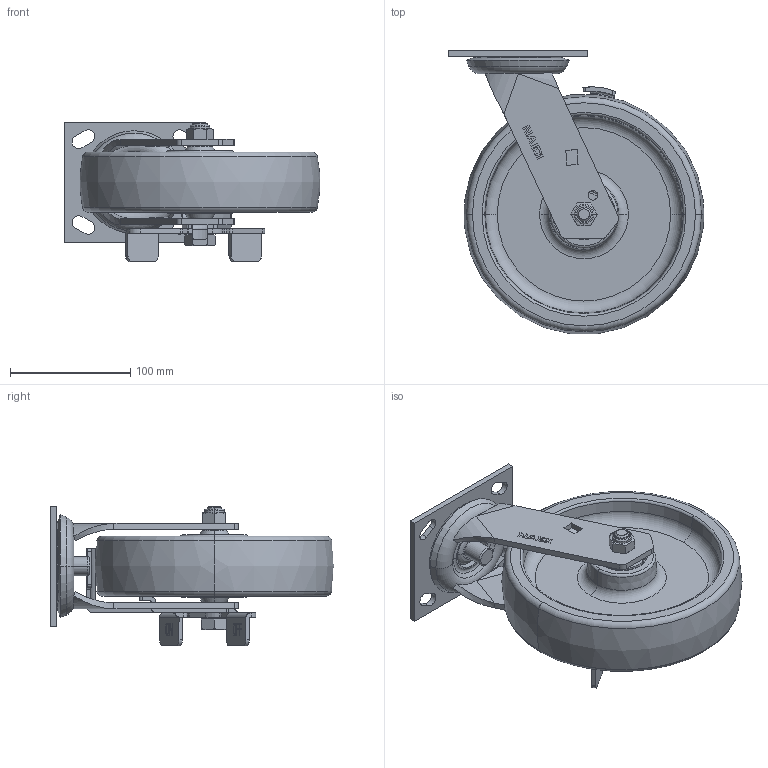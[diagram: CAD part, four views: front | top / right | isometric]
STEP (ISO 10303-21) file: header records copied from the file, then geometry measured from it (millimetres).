
FILE_DESCRIPTION((''),'2;1');
FILE_NAME('C74118_ASM','2024-06-27T',('Lenovo'),(''),'PRO/ENGINEER BY PARAMETRIC TECHNOLOGY CORPORATION, 2010280','PRO/ENGINEER BY PARAMETRIC TECHNOLOGY CORPORATION, 2010280','');
FILE_SCHEMA(('CONFIG_CONTROL_DESIGN'));
Length unit declared in the file: millimetre
Products named in the file (13): C7410-201; C7410-211; C7418-353; 7310-051; C748-906; C7410-008; C740-68; C748-08_ASM; 708-15; 700-14; 700C-33; 7010-34; C74118_ASM
Assembly tree (13 placements, depth 3):
  C74118_ASM
    C7410-201
    C7410-211
    C7418-353
    7310-051
    C748-08_ASM
      C748-906
      C7410-008
      C740-68  x2
    708-15
    700-14
    700C-33
    7010-34
Bounding box: 212.75 x 235.87 x 116.5 mm (x, y, z)
Volume: 945315.8 mm3; surface area: 227280.6 mm2
Topology: 13 solids, 13 shells, 588 faces, 1450 edges, 929 vertices
Faces by surface type: plane 318, cylinder 134, torus 80, cone 46, bspline 8, sphere 2
Entity records: 17705 total; most frequent: CARTESIAN_POINT 3588, DIRECTION 2967, ORIENTED_EDGE 2820, EDGE_CURVE 1410, AXIS2_PLACEMENT_3D 1033, VERTEX_POINT 905, VECTOR 901, LINE 901
